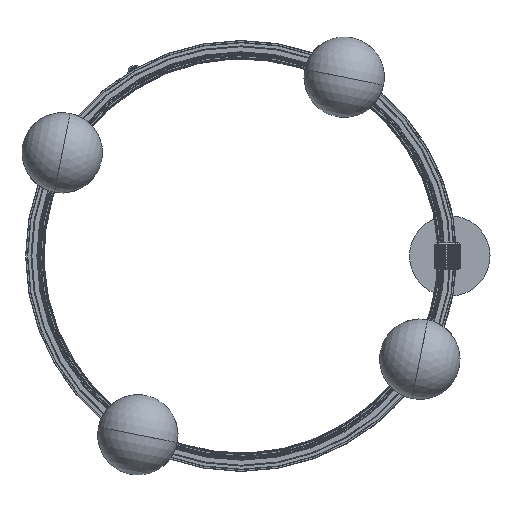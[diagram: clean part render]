
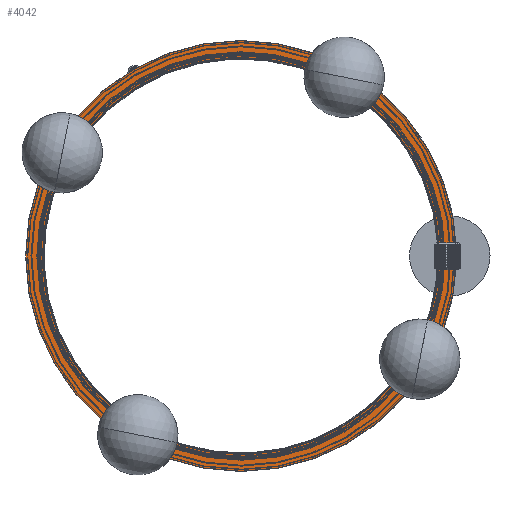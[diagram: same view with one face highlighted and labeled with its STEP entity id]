
A CAD part, left-side view. The second image highlights one B-rep face of the part: STEP entity #4042.
In plain terms, the highlighted planar face has unit normal (-1, 0, 0).
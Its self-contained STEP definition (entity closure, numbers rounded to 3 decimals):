
#65 = EDGE_CURVE ( 'NONE', #52968, #57371, #6364, .T. ) ;
#474 = AXIS2_PLACEMENT_3D ( 'NONE', #31846, #18109, #32134 ) ;
#864 = PLANE ( 'NONE',  #49307 ) ;
#1463 = CIRCLE ( 'NONE', #37792, 221.405 ) ;
#1856 = VERTEX_POINT ( 'NONE', #45212 ) ;
#2122 = EDGE_CURVE ( 'NONE', #15024, #1856, #59160, .T. ) ;
#2282 = DIRECTION ( 'NONE',  ( 0., -1., 0. ) ) ;
#3049 = AXIS2_PLACEMENT_3D ( 'NONE', #25276, #39318, #43522 ) ;
#3100 = CARTESIAN_POINT ( 'NONE',  ( -15., 125.614, 200.005 ) ) ;
#4042 = ADVANCED_FACE ( 'NONE', ( #28728, #51177, #9840, #36801, #14931, #9553 ), #864, .F. ) ;
#5041 = VERTEX_POINT ( 'NONE', #46700 ) ;
#5435 = EDGE_LOOP ( 'NONE', ( #37175, #9447 ) ) ;
#6364 = CIRCLE ( 'NONE', #28402, 4. ) ;
#6518 = EDGE_CURVE ( 'NONE', #5041, #56818, #57941, .T. ) ;
#6843 = CIRCLE ( 'NONE', #3049, 221.405 ) ;
#7585 = VERTEX_POINT ( 'NONE', #49967 ) ;
#8342 = CIRCLE ( 'NONE', #43750, 4. ) ;
#8548 = ORIENTED_EDGE ( 'NONE', *, *, #36432, .F. ) ;
#9447 = ORIENTED_EDGE ( 'NONE', *, *, #48695, .F. ) ;
#9553 = FACE_BOUND ( 'NONE', #54888, .T. ) ;
#9765 = EDGE_LOOP ( 'NONE', ( #26810, #8548 ) ) ;
#9840 = FACE_BOUND ( 'NONE', #45578, .T. ) ;
#10443 = DIRECTION ( 'NONE',  ( 0., 0., -1. ) ) ;
#10550 = CARTESIAN_POINT ( 'NONE',  ( -15., 441.005, 115.386 ) ) ;
#11409 = CARTESIAN_POINT ( 'NONE',  ( -15., 40.995, -119.386 ) ) ;
#11955 = ORIENTED_EDGE ( 'NONE', *, *, #35499, .T. ) ;
#12703 = DIRECTION ( 'NONE',  ( 0., 1., 0. ) ) ;
#13804 = CARTESIAN_POINT ( 'NONE',  ( -15., 356.386, -196.005 ) ) ;
#14931 = FACE_OUTER_BOUND ( 'NONE', #9765, .T. ) ;
#15024 = VERTEX_POINT ( 'NONE', #13804 ) ;
#15347 = DIRECTION ( 'NONE',  ( 0., 0., -1. ) ) ;
#16697 = VERTEX_POINT ( 'NONE', #48901 ) ;
#17219 = CARTESIAN_POINT ( 'NONE',  ( -15., 241., -240.7 ) ) ;
#17488 = CIRCLE ( 'NONE', #58589, 4. ) ;
#17994 = EDGE_CURVE ( 'NONE', #57371, #52968, #8342, .T. ) ;
#18074 = DIRECTION ( 'NONE',  ( -1., 0., 0. ) ) ;
#18109 = DIRECTION ( 'NONE',  ( -1., 0., 0. ) ) ;
#21438 = DIRECTION ( 'NONE',  ( 0., 0., 1. ) ) ;
#22234 = AXIS2_PLACEMENT_3D ( 'NONE', #10550, #23751, #15347 ) ;
#23141 = ORIENTED_EDGE ( 'NONE', *, *, #17994, .F. ) ;
#23501 = CARTESIAN_POINT ( 'NONE',  ( -15., 125.614, 204.005 ) ) ;
#23561 = AXIS2_PLACEMENT_3D ( 'NONE', #54282, #18074, #53984 ) ;
#23751 = DIRECTION ( 'NONE',  ( -1., 0., 0. ) ) ;
#24461 = DIRECTION ( 'NONE',  ( -1., 0., 0. ) ) ;
#25114 = CIRCLE ( 'NONE', #22234, 4. ) ;
#25276 = CARTESIAN_POINT ( 'NONE',  ( -15., 241., 0. ) ) ;
#25607 = DIRECTION ( 'NONE',  ( 1., 0., 0. ) ) ;
#26318 = CIRCLE ( 'NONE', #474, 4. ) ;
#26554 = DIRECTION ( 'NONE',  ( -1., 0., 0. ) ) ;
#26652 = AXIS2_PLACEMENT_3D ( 'NONE', #37920, #24461, #2282 ) ;
#26810 = ORIENTED_EDGE ( 'NONE', *, *, #28166, .F. ) ;
#26882 = ORIENTED_EDGE ( 'NONE', *, *, #65, .F. ) ;
#27093 = CARTESIAN_POINT ( 'NONE',  ( -15., 125.614, 200.005 ) ) ;
#27340 = DIRECTION ( 'NONE',  ( 1., 0., 0. ) ) ;
#28130 = DIRECTION ( 'NONE',  ( 1., 0., 0. ) ) ;
#28166 = EDGE_CURVE ( 'NONE', #42918, #46694, #56392, .T. ) ;
#28402 = AXIS2_PLACEMENT_3D ( 'NONE', #27093, #45342, #12703 ) ;
#28728 = FACE_BOUND ( 'NONE', #5435, .T. ) ;
#28784 = ORIENTED_EDGE ( 'NONE', *, *, #48343, .F. ) ;
#29745 = CARTESIAN_POINT ( 'NONE',  ( -15., 241., 0. ) ) ;
#30431 = EDGE_CURVE ( 'NONE', #55986, #51409, #6843, .T. ) ;
#30588 = AXIS2_PLACEMENT_3D ( 'NONE', #31804, #27340, #46182 ) ;
#31281 = CARTESIAN_POINT ( 'NONE',  ( -15., 241., 221.405 ) ) ;
#31804 = CARTESIAN_POINT ( 'NONE',  ( -15., 241., 0. ) ) ;
#31846 = CARTESIAN_POINT ( 'NONE',  ( -15., 441.005, 115.386 ) ) ;
#31891 = ORIENTED_EDGE ( 'NONE', *, *, #35588, .F. ) ;
#32134 = DIRECTION ( 'NONE',  ( 0., 0., -1. ) ) ;
#33184 = EDGE_CURVE ( 'NONE', #16697, #7585, #25114, .T. ) ;
#34291 = ORIENTED_EDGE ( 'NONE', *, *, #33184, .F. ) ;
#35130 = DIRECTION ( 'NONE',  ( -1., 0., 0. ) ) ;
#35456 = CARTESIAN_POINT ( 'NONE',  ( -15., 241., 0. ) ) ;
#35499 = EDGE_CURVE ( 'NONE', #51409, #55986, #1463, .T. ) ;
#35588 = EDGE_CURVE ( 'NONE', #7585, #16697, #26318, .T. ) ;
#36432 = EDGE_CURVE ( 'NONE', #46694, #42918, #55056, .T. ) ;
#36801 = FACE_BOUND ( 'NONE', #41725, .T. ) ;
#37175 = ORIENTED_EDGE ( 'NONE', *, *, #2122, .F. ) ;
#37792 = AXIS2_PLACEMENT_3D ( 'NONE', #35456, #25607, #53727 ) ;
#37920 = CARTESIAN_POINT ( 'NONE',  ( -15., 356.386, -200.005 ) ) ;
#38669 = EDGE_LOOP ( 'NONE', ( #34291, #31891 ) ) ;
#39004 = DIRECTION ( 'NONE',  ( 0., 0., -1. ) ) ;
#39318 = DIRECTION ( 'NONE',  ( 1., 0., 0. ) ) ;
#39545 = CARTESIAN_POINT ( 'NONE',  ( -15., 241., 240.7 ) ) ;
#39704 = DIRECTION ( 'NONE',  ( 0., -1., 0. ) ) ;
#40116 = ORIENTED_EDGE ( 'NONE', *, *, #30431, .T. ) ;
#40744 = AXIS2_PLACEMENT_3D ( 'NONE', #29745, #43498, #39004 ) ;
#41725 = EDGE_LOOP ( 'NONE', ( #44055, #28784 ) ) ;
#42299 = CIRCLE ( 'NONE', #51910, 4. ) ;
#42918 = VERTEX_POINT ( 'NONE', #17219 ) ;
#43498 = DIRECTION ( 'NONE',  ( 1., 0., 0. ) ) ;
#43522 = DIRECTION ( 'NONE',  ( 0., 0., -1. ) ) ;
#43750 = AXIS2_PLACEMENT_3D ( 'NONE', #3100, #35130, #48629 ) ;
#44009 = CARTESIAN_POINT ( 'NONE',  ( -15., 241., -221.405 ) ) ;
#44055 = ORIENTED_EDGE ( 'NONE', *, *, #6518, .F. ) ;
#45212 = CARTESIAN_POINT ( 'NONE',  ( -15., 356.386, -204.005 ) ) ;
#45342 = DIRECTION ( 'NONE',  ( -1., 0., 0. ) ) ;
#45578 = EDGE_LOOP ( 'NONE', ( #26882, #23141 ) ) ;
#46182 = DIRECTION ( 'NONE',  ( 0., 0., -1. ) ) ;
#46694 = VERTEX_POINT ( 'NONE', #39545 ) ;
#46700 = CARTESIAN_POINT ( 'NONE',  ( -15., 40.995, -111.386 ) ) ;
#48135 = CARTESIAN_POINT ( 'NONE',  ( -15., 356.386, -200.005 ) ) ;
#48343 = EDGE_CURVE ( 'NONE', #56818, #5041, #42299, .T. ) ;
#48629 = DIRECTION ( 'NONE',  ( 0., 1., 0. ) ) ;
#48695 = EDGE_CURVE ( 'NONE', #1856, #15024, #17488, .T. ) ;
#48901 = CARTESIAN_POINT ( 'NONE',  ( -15., 441.005, 119.386 ) ) ;
#49307 = AXIS2_PLACEMENT_3D ( 'NONE', #50603, #28130, #10443 ) ;
#49967 = CARTESIAN_POINT ( 'NONE',  ( -15., 441.005, 111.386 ) ) ;
#50603 = CARTESIAN_POINT ( 'NONE',  ( -15., 19.595, 0. ) ) ;
#51177 = FACE_BOUND ( 'NONE', #38669, .T. ) ;
#51409 = VERTEX_POINT ( 'NONE', #31281 ) ;
#51910 = AXIS2_PLACEMENT_3D ( 'NONE', #58265, #26554, #21438 ) ;
#52968 = VERTEX_POINT ( 'NONE', #23501 ) ;
#53727 = DIRECTION ( 'NONE',  ( 0., 0., -1. ) ) ;
#53793 = DIRECTION ( 'NONE',  ( -1., 0., 0. ) ) ;
#53984 = DIRECTION ( 'NONE',  ( 0., 0., 1. ) ) ;
#54282 = CARTESIAN_POINT ( 'NONE',  ( -15., 40.995, -115.386 ) ) ;
#54888 = EDGE_LOOP ( 'NONE', ( #40116, #11955 ) ) ;
#55056 = CIRCLE ( 'NONE', #40744, 240.7 ) ;
#55986 = VERTEX_POINT ( 'NONE', #44009 ) ;
#56392 = CIRCLE ( 'NONE', #30588, 240.7 ) ;
#56818 = VERTEX_POINT ( 'NONE', #11409 ) ;
#57371 = VERTEX_POINT ( 'NONE', #58245 ) ;
#57941 = CIRCLE ( 'NONE', #23561, 4. ) ;
#58245 = CARTESIAN_POINT ( 'NONE',  ( -15., 125.614, 196.005 ) ) ;
#58265 = CARTESIAN_POINT ( 'NONE',  ( -15., 40.995, -115.386 ) ) ;
#58589 = AXIS2_PLACEMENT_3D ( 'NONE', #48135, #53793, #39704 ) ;
#59160 = CIRCLE ( 'NONE', #26652, 4. ) ;
